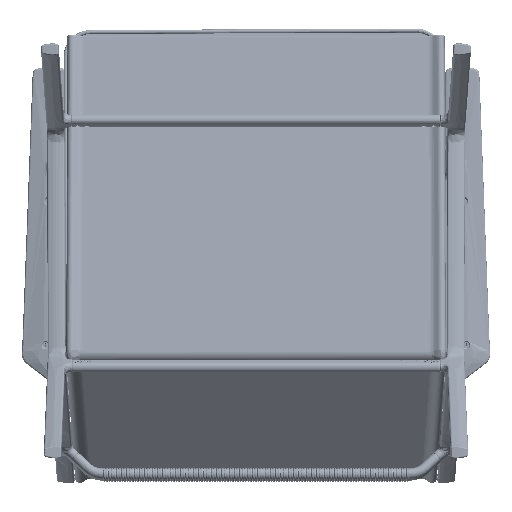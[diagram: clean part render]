
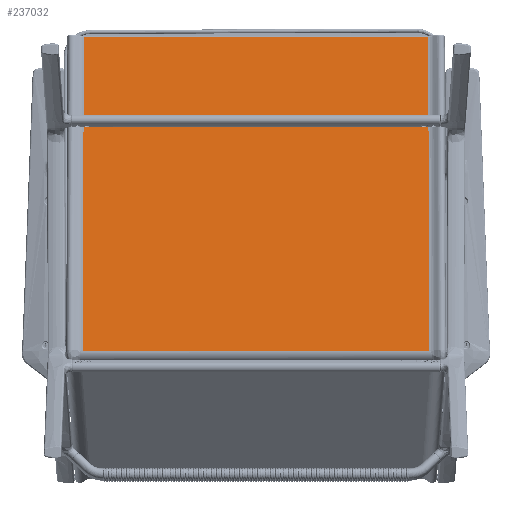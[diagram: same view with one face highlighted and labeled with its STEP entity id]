
A CAD part, front view. The second image highlights one B-rep face of the part: STEP entity #237032.
In plain terms, the highlighted planar face has unit normal (0, -0.991, 0.137).
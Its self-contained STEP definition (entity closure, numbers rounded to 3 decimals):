
#4224 = EDGE_CURVE ( 'NONE', #194436, #56006, #19465, .T. ) ;
#12252 = CARTESIAN_POINT ( 'NONE',  ( -278.835, -209.118, 1282.34 ) ) ;
#16221 = EDGE_CURVE ( 'NONE', #124314, #194436, #250440, .T. ) ;
#19465 = B_SPLINE_CURVE_WITH_KNOTS ( 'NONE', 3,
 ( #292844, #240113, #289580, #144383 ),
 .UNSPECIFIED., .F., .F.,
 ( 4, 4 ),
 ( 0., 1. ),
 .UNSPECIFIED. ) ;
#23423 = VECTOR ( 'NONE', #195071, 1000. ) ;
#26925 = CARTESIAN_POINT ( 'NONE',  ( -264.458, -278.657, 779.71 ) ) ;
#27279 = CARTESIAN_POINT ( 'NONE',  ( 292.7, -278.657, 779.71 ) ) ;
#27658 = DIRECTION ( 'NONE',  ( -0.004, -0.137, -0.991 ) ) ;
#31395 = CARTESIAN_POINT ( 'NONE',  ( -262.813, -278.448, 781.219 ) ) ;
#36876 = CARTESIAN_POINT ( 'NONE',  ( -263.425, -278.523, 780.677 ) ) ;
#40834 = VERTEX_POINT ( 'NONE', #26925 ) ;
#41392 = DIRECTION ( 'NONE',  ( 0., -0.137, -0.991 ) ) ;
#45024 = CARTESIAN_POINT ( 'NONE',  ( -263.531, -278.537, 780.579 ) ) ;
#45061 = CARTESIAN_POINT ( 'NONE',  ( 291.055, -278.443, 781.254 ) ) ;
#47600 = LINE ( 'NONE', #148272, #264197 ) ;
#47778 = EDGE_CURVE ( 'NONE', #135955, #52004, #158497, .T. ) ;
#49915 = CARTESIAN_POINT ( 'NONE',  ( -263.629, -278.549, 780.488 ) ) ;
#52004 = VERTEX_POINT ( 'NONE', #127463 ) ;
#52052 = CARTESIAN_POINT ( 'NONE',  ( 292.125, -278.582, 780.252 ) ) ;
#53674 = CARTESIAN_POINT ( 'NONE',  ( 291.353, -278.483, 780.968 ) ) ;
#55494 = EDGE_CURVE ( 'NONE', #40834, #135955, #47600, .T. ) ;
#56006 = VERTEX_POINT ( 'NONE', #31395 ) ;
#62189 = ORIENTED_EDGE ( 'NONE', *, *, #278219, .T. ) ;
#64090 = EDGE_CURVE ( 'NONE', #178697, #133470, #163828, .T. ) ;
#71813 = CARTESIAN_POINT ( 'NONE',  ( -262.813, -278.443, 781.254 ) ) ;
#72942 = CARTESIAN_POINT ( 'NONE',  ( 291.055, -278.445, 781.242 ) ) ;
#75200 = CARTESIAN_POINT ( 'NONE',  ( 291.916, -278.555, 780.446 ) ) ;
#81048 = B_SPLINE_CURVE_WITH_KNOTS ( 'NONE', 3,
 ( #111185, #211807, #162327, #262911, #36876, #45024, #101066, #297420, #49915, #325450, #221579, #124242, #150594, #224856, #323814 ),
 .UNSPECIFIED., .F., .F.,
 ( 4, 1, 1, 1, 1, 1, 1, 1, 2, 2, 4 ),
 ( 0., 0.25, 0.375, 0.437, 0.469, 0.484, 0.492, 0.496, 0.498, 0.5, 1. ),
 .UNSPECIFIED. ) ;
#94776 = CARTESIAN_POINT ( 'NONE',  ( -260.689, -209.118, 1282.34 ) ) ;
#96089 = CARTESIAN_POINT ( 'NONE',  ( 291.055, -278.448, 781.219 ) ) ;
#99964 = CARTESIAN_POINT ( 'NONE',  ( 291.076, -278.449, 781.216 ) ) ;
#101066 = CARTESIAN_POINT ( 'NONE',  ( -263.586, -278.544, 780.527 ) ) ;
#107783 = AXIS2_PLACEMENT_3D ( 'NONE', #320186, #194816, #41392 ) ;
#110417 = VECTOR ( 'NONE', #27658, 1000. ) ;
#111185 = CARTESIAN_POINT ( 'NONE',  ( -262.813, -278.448, 781.219 ) ) ;
#113025 = EDGE_CURVE ( 'NONE', #52004, #178697, #200530, .T. ) ;
#117457 = VECTOR ( 'NONE', #187146, 1000. ) ;
#124242 = CARTESIAN_POINT ( 'NONE',  ( -263.643, -278.551, 780.475 ) ) ;
#124314 = VERTEX_POINT ( 'NONE', #94776 ) ;
#127463 = CARTESIAN_POINT ( 'NONE',  ( 291.055, -278.448, 781.219 ) ) ;
#127979 = CARTESIAN_POINT ( 'NONE',  ( 291.055, -278.448, 781.219 ) ) ;
#133470 = VERTEX_POINT ( 'NONE', #183025 ) ;
#135955 = VERTEX_POINT ( 'NONE', #253659 ) ;
#144383 = CARTESIAN_POINT ( 'NONE',  ( -262.813, -278.448, 781.219 ) ) ;
#147864 = CARTESIAN_POINT ( 'NONE',  ( 292.566, -278.639, 779.838 ) ) ;
#148272 = CARTESIAN_POINT ( 'NONE',  ( -278.835, -278.657, 779.71 ) ) ;
#150594 = CARTESIAN_POINT ( 'NONE',  ( -263.918, -278.586, 780.22 ) ) ;
#152704 = CARTESIAN_POINT ( 'NONE',  ( 291.946, -278.559, 780.419 ) ) ;
#158497 = B_SPLINE_CURVE_WITH_KNOTS ( 'NONE', 3,
 ( #27279, #147864, #278039, #52052, #322700, #152704, #75200, #226948, #301187, #172591, #223730, #325953, #53674, #99964, #127979 ),
 .UNSPECIFIED., .F., .F.,
 ( 4, 1, 1, 1, 1, 1, 1, 1, 2, 2, 4 ),
 ( 0., 0.25, 0.375, 0.437, 0.469, 0.484, 0.492, 0.496, 0.498, 0.5, 1. ),
 .UNSPECIFIED. ) ;
#162327 = CARTESIAN_POINT ( 'NONE',  ( -262.936, -278.461, 781.123 ) ) ;
#163828 = LINE ( 'NONE', #320447, #23423 ) ;
#167768 = ORIENTED_EDGE ( 'NONE', *, *, #4224, .T. ) ;
#170448 = ORIENTED_EDGE ( 'NONE', *, *, #16221, .T. ) ;
#172591 = CARTESIAN_POINT ( 'NONE',  ( 291.89, -278.552, 780.47 ) ) ;
#173589 = CARTESIAN_POINT ( 'NONE',  ( 291.055, -278.443, 781.254 ) ) ;
#178697 = VERTEX_POINT ( 'NONE', #45061 ) ;
#183025 = CARTESIAN_POINT ( 'NONE',  ( 288.931, -209.118, 1282.34 ) ) ;
#187146 = DIRECTION ( 'NONE',  ( -1., 0., 0. ) ) ;
#194436 = VERTEX_POINT ( 'NONE', #71813 ) ;
#194816 = DIRECTION ( 'NONE',  ( 0., -0.991, 0.137 ) ) ;
#195071 = DIRECTION ( 'NONE',  ( -0.004, 0.137, 0.991 ) ) ;
#196703 = CARTESIAN_POINT ( 'NONE',  ( 291.055, -278.447, 781.231 ) ) ;
#198771 = ORIENTED_EDGE ( 'NONE', *, *, #113025, .T. ) ;
#200530 = B_SPLINE_CURVE_WITH_KNOTS ( 'NONE', 3,
 ( #96089, #196703, #72942, #173589 ),
 .UNSPECIFIED., .F., .F.,
 ( 4, 4 ),
 ( 0., 1. ),
 .UNSPECIFIED. ) ;
#203006 = ORIENTED_EDGE ( 'NONE', *, *, #64090, .T. ) ;
#203428 = ORIENTED_EDGE ( 'NONE', *, *, #47778, .T. ) ;
#211807 = CARTESIAN_POINT ( 'NONE',  ( -262.824, -278.448, 781.218 ) ) ;
#213152 = EDGE_LOOP ( 'NONE', ( #203428, #198771, #203006, #216434, #170448, #167768, #62189, #264830 ) ) ;
#213544 = LINE ( 'NONE', #12252, #117457 ) ;
#216434 = ORIENTED_EDGE ( 'NONE', *, *, #230762, .T. ) ;
#221579 = CARTESIAN_POINT ( 'NONE',  ( -263.64, -278.551, 780.478 ) ) ;
#223730 = CARTESIAN_POINT ( 'NONE',  ( 291.888, -278.552, 780.472 ) ) ;
#224856 = CARTESIAN_POINT ( 'NONE',  ( -264.189, -278.622, 779.966 ) ) ;
#225723 = CARTESIAN_POINT ( 'NONE',  ( -260.689, -209.118, 1282.34 ) ) ;
#226948 = CARTESIAN_POINT ( 'NONE',  ( 291.901, -278.553, 780.46 ) ) ;
#230762 = EDGE_CURVE ( 'NONE', #133470, #124314, #213544, .T. ) ;
#237032 = ADVANCED_FACE ( 'NONE', ( #323454 ), #273924, .T. ) ;
#240113 = CARTESIAN_POINT ( 'NONE',  ( -262.813, -278.445, 781.242 ) ) ;
#250440 = LINE ( 'NONE', #225723, #110417 ) ;
#253659 = CARTESIAN_POINT ( 'NONE',  ( 292.7, -278.657, 779.71 ) ) ;
#262911 = CARTESIAN_POINT ( 'NONE',  ( -263.234, -278.499, 780.852 ) ) ;
#264197 = VECTOR ( 'NONE', #301597, 1000. ) ;
#264830 = ORIENTED_EDGE ( 'NONE', *, *, #55494, .T. ) ;
#273924 = PLANE ( 'NONE',  #107783 ) ;
#278039 = CARTESIAN_POINT ( 'NONE',  ( 292.363, -278.613, 780.029 ) ) ;
#278219 = EDGE_CURVE ( 'NONE', #56006, #40834, #81048, .T. ) ;
#289580 = CARTESIAN_POINT ( 'NONE',  ( -262.813, -278.447, 781.231 ) ) ;
#292844 = CARTESIAN_POINT ( 'NONE',  ( -262.813, -278.443, 781.254 ) ) ;
#297420 = CARTESIAN_POINT ( 'NONE',  ( -263.615, -278.548, 780.501 ) ) ;
#301187 = CARTESIAN_POINT ( 'NONE',  ( 291.893, -278.552, 780.467 ) ) ;
#301597 = DIRECTION ( 'NONE',  ( 1., 0., 0. ) ) ;
#320186 = CARTESIAN_POINT ( 'NONE',  ( -278.835, -208.844, 1284.322 ) ) ;
#320447 = CARTESIAN_POINT ( 'NONE',  ( 291.055, -278.443, 781.254 ) ) ;
#322700 = CARTESIAN_POINT ( 'NONE',  ( 292.006, -278.567, 780.363 ) ) ;
#323454 = FACE_OUTER_BOUND ( 'NONE', #213152, .T. ) ;
#323814 = CARTESIAN_POINT ( 'NONE',  ( -264.458, -278.657, 779.71 ) ) ;
#325450 = CARTESIAN_POINT ( 'NONE',  ( -263.636, -278.55, 780.482 ) ) ;
#325953 = CARTESIAN_POINT ( 'NONE',  ( 291.888, -278.551, 780.472 ) ) ;
